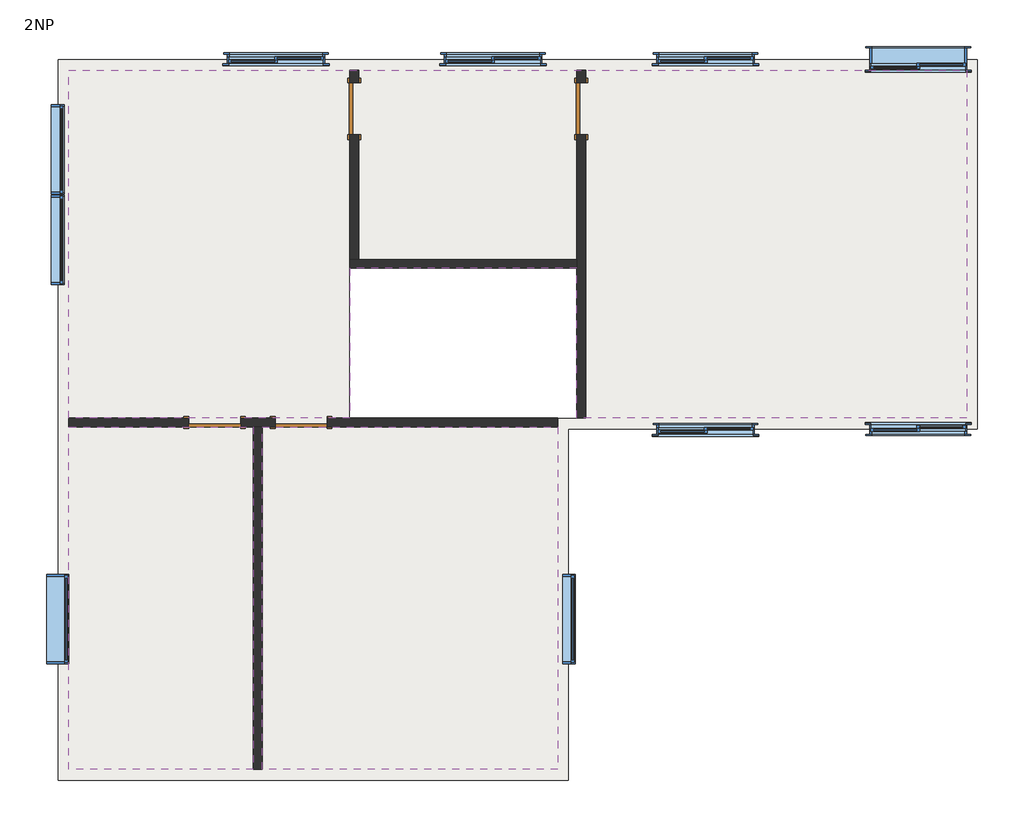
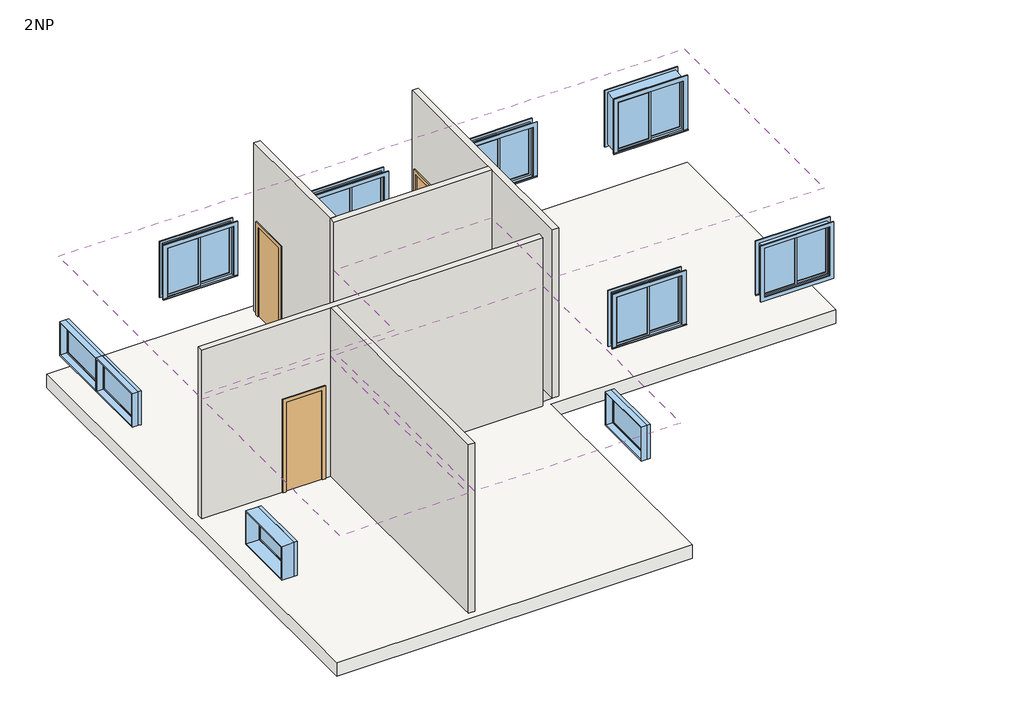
# One storey: 10 windows, 5 walls, 4 doors, 3 coverings, 1 slab.
"""IFC4 building model written with IfcOpenShell, lengths in millimetres."""

from ifc_helpers import new_model, si_unit, frame, origin, place, context, project, spatial, polyline, outline, extrude, faceted_brep, transform, mapped, element, save
from components import m_single_flush1_0813_x_2134mm_5dcb0bd6, m_single_flush1_0813_x_2134mm_bf4bb56d, m_single_flush1_0813_x_2134mm_cfdfac75, m_fixed1_1400_x_0800mm_5a787fd8, m_fixed1_1400_x_0800mm_a23a53e8, m_sliding_with_trim_1830_x_1220mm_c09c27c4, m_sliding_with_trim_1830_x_1220mm_f8e2f31e

model = new_model("IFC4")

# Units and contexts
model_context = context("Model", 3, world=origin())
ifc_project = project(units=[si_unit("LENGTHUNIT", "METRE", prefix="MILLI")], contexts=[model_context])

# Site, building, storey
site = spatial("IfcSite", under=ifc_project)
building = spatial("IfcBuilding", under=site)
storey = spatial("IfcBuildingStorey", under=building, Name="2NP", Elevation=4000.0)

# Coverings
placement = place(None, origin())
element("IfcCovering", 1, ObjectType="600 x 600mm grid", at=placement, inside=storey, context=model_context, shape_type="SweptSolid", body=[
    extrude(outline(polyline([(-4293.8077176, -4075.1973194), (-7180.3077176, -4075.1973194), (-7180.3077176, 1286.3026806), (-4293.8077176, 1286.3026806), (-4293.8077176, -4075.1973194)])), frame((0.0, 0.0, 6850.0), z_axis=(0.0, 0.0, 1.0), x_axis=(1.0, 0.0, 0.0)), (0.0, 0.0, 1.0), 52.0),
])
element("IfcCovering", 2, ObjectType="600 x 600mm grid", at=placement, inside=storey, context=model_context, shape_type="SweptSolid", body=[
    extrude(outline(polyline([(469.6922824, 1286.3026806), (469.6922824, -4075.1973194), (-4155.3077176, -4075.1973194), (-4155.3077176, 1286.3026806), (469.6922824, 1286.3026806)])), frame((0.0, 0.0, 6850.0), z_axis=(0.0, 0.0, 1.0), x_axis=(1.0, 0.0, 0.0)), (0.0, 0.0, 1.0), 52.0),
])
element("IfcCovering", 3, ObjectType="600 x 600mm grid", at=placement, inside=storey, context=model_context, shape_type="SweptSolid", body=[
    extrude(outline(polyline([(6869.6922824, 6874.8026806), (6869.6922824, 1424.8026806), (764.743045, 1424.8026806), (764.743045, 3773.1003657), (-2785.256955, 3773.1003657), (-2785.256955, 1424.8026806), (-7180.3077176, 1424.8026806), (-7180.3077176, 6874.8026806), (6869.6922824, 6874.8026806)])), frame((0.0, 0.0, 6850.0), z_axis=(0.0, 0.0, 1.0), x_axis=(1.0, 0.0, 0.0)), (0.0, 0.0, 1.0), 52.0),
])

# Doors
m_single_flush1_0813_x_2134mm_shape = m_single_flush1_0813_x_2134mm_5dcb0bd6(model_context)
element("IfcDoor", 4, ObjectType="M_Single-Flush1 : 0813 x 2134mm", at=placement, inside=storey, context=model_context, shape_type="MappedRepresentation", body=[
    mapped(m_single_flush1_0813_x_2134mm_shape, transform((833.993045, 6268.3026806, 4000.0), x_axis=(0.0, 1.0, 0.0), y_axis=(-1.0, 0.0, 0.0), z_axis=(0.0, 0.0, 1.0))),
])
element("IfcDoor", 5, ObjectType="M_Single-Flush1 : 0813 x 2134mm", at=placement, inside=storey, context=model_context, shape_type="MappedRepresentation", body=[
    mapped(m_single_flush1_0813_x_2134mm_shape, transform((-2716.006955, 6268.3026806, 4000.0), x_axis=(0.0, 1.0, 0.0), y_axis=(-1.0, 0.0, 0.0), z_axis=(0.0, 0.0, 1.0))),
])
m_single_flush1_0813_x_2134mm_2_shape = m_single_flush1_0813_x_2134mm_bf4bb56d(model_context)
element("IfcDoor", 6, ObjectType="M_Single-Flush1 : 0813 x 2134mm", at=placement, inside=storey, context=model_context, shape_type="MappedRepresentation", body=[
    mapped(m_single_flush1_0813_x_2134mm_2_shape, transform((-4900.3077176, 1355.5526806, 4000.0), x_axis=(1.0, 0.0, 0.0), y_axis=(0.0, 1.0, 0.0), z_axis=(0.0, 0.0, 1.0))),
])
m_single_flush1_0813_x_2134mm_3_shape = m_single_flush1_0813_x_2134mm_cfdfac75(model_context)
element("IfcDoor", 7, ObjectType="M_Single-Flush1 : 0813 x 2134mm", at=placement, inside=storey, context=model_context, shape_type="MappedRepresentation", body=[
    mapped(m_single_flush1_0813_x_2134mm_3_shape, transform((-3548.8077176, 1355.5526806, 4000.0), x_axis=(-1.0, 0.0, 0.0), y_axis=(0.0, -1.0, 0.0), z_axis=(0.0, 0.0, 1.0))),
])

# Slab
element("IfcSlab", 8, ObjectType="Residential 320mm", at=placement, inside=storey, context=model_context, shape_type="Brep", body=[
    faceted_brep([(-7345.3077176, -4240.1973194, 3680.0), (-7345.3077176, 7039.8026806, 3680.0), (7034.6922824, 7039.8026806, 3680.0), (7034.6922824, 1259.8026806, 3680.0), (634.6922824, 1259.8026806, 3680.0), (634.6922824, -4240.1973194, 3680.0), (764.743045, 3773.1003657, 3680.0), (-2785.256955, 3773.1003657, 3680.0), (-2785.256955, 1424.8026806, 3680.0), (469.6922824, 1424.8026806, 3680.0), (764.743045, 1424.8026806, 3680.0), (-7345.3077176, 7039.8026806, 4000.0), (-7345.3077176, -4240.1973194, 4000.0), (634.6922824, -4240.1973194, 4000.0), (634.6922824, 1259.8026806, 4000.0), (7034.6922824, 1259.8026806, 4000.0), (7034.6922824, 7039.8026806, 4000.0), (-2785.256955, 3773.1003657, 4000.0), (764.743045, 3773.1003657, 4000.0), (764.743045, 1424.8026806, 4000.0), (469.6922824, 1424.8026806, 4000.0), (-2785.256955, 1424.8026806, 4000.0)], [[[0, 1, 2, 3, 4, 5], [6, 7, 8, 9, 10]], [[11, 12, 13, 14, 15, 16], [17, 18, 19, 20, 21]], [[1, 0, 12, 11]], [[2, 1, 11, 16]], [[3, 2, 16, 15]], [[4, 3, 15, 14]], [[5, 4, 14, 13]], [[0, 5, 13, 12]], [[17, 7, 6, 18]], [[18, 6, 10, 19]], [[19, 10, 9, 8, 21, 20]], [[7, 17, 21, 8]]]),
])

# Walls
element("IfcWall", 9, ObjectType="Interior - 138mm Partition (1-hr)", at=placement, inside=storey, context=model_context, shape_type="Brep", body=[
    faceted_brep([(-3955.3077176, 1424.8026806, 6134.0), (-3955.3077176, 1424.8026806, 4000.0), (-4493.8077176, 1424.8026806, 4000.0), (-4493.8077176, 1424.8026806, 6134.0), (-5306.8077176, 1424.8026806, 6134.0), (-5306.8077176, 1424.8026806, 4000.0), (-7180.3077176, 1424.8026806, 4000.0), (-7180.3077176, 1424.8026806, 8000.0), (469.6922824, 1424.8026806, 8000.0), (469.6922824, 1424.8026806, 7680.0), (469.6922824, 1424.8026806, 4000.0), (-3142.3077176, 1424.8026806, 4000.0), (-3142.3077176, 1424.8026806, 6134.0), (-4493.8077176, 1286.3026806, 4000.0), (-4293.8077176, 1286.3026806, 4000.0), (-4155.3077176, 1286.3026806, 4000.0), (-3955.3077176, 1286.3026806, 4000.0), (-3955.3077176, 1286.3026806, 6134.0), (-3142.3077176, 1286.3026806, 6134.0), (-3142.3077176, 1286.3026806, 4000.0), (469.6922824, 1286.3026806, 4000.0), (469.6922824, 1286.3026806, 8000.0), (-4155.3077176, 1286.3026806, 8000.0), (-4293.8077176, 1286.3026806, 8000.0), (-7180.3077176, 1286.3026806, 8000.0), (-7180.3077176, 1286.3026806, 4000.0), (-5306.8077176, 1286.3026806, 4000.0), (-5306.8077176, 1286.3026806, 6134.0), (-4493.8077176, 1286.3026806, 6134.0)], [[[0, 1, 2, 3, 4, 5, 6, 7, 8, 9, 10, 11, 12]], [[13, 14, 15, 16, 17, 18, 19, 20, 21, 22, 23, 24, 25, 26, 27, 28]], [[2, 1, 16, 15, 14, 13]], [[26, 25, 6, 5]], [[11, 10, 20, 19]], [[8, 7, 24, 23, 22, 21]], [[7, 6, 25, 24]], [[10, 9, 8, 21, 20]], [[3, 2, 13, 28]], [[4, 3, 28, 27]], [[5, 4, 27, 26]], [[17, 16, 1, 0]], [[18, 17, 0, 12]], [[19, 18, 12, 11]]]),
])
element("IfcWall", 10, ObjectType="Interior - 138mm Partition (1-hr)", at=placement, inside=storey, context=model_context, shape_type="SweptSolid", body=[
    extrude(outline(polyline([(-4293.8077176, -4075.1973194), (-4293.8077176, 1286.3026806), (-4155.3077176, 1286.3026806), (-4155.3077176, -4075.1973194), (-4293.8077176, -4075.1973194)])), frame((0.0, 0.0, 4000.0), z_axis=(0.0, 0.0, 1.0), x_axis=(1.0, 0.0, 0.0)), (0.0, 0.0, 1.0), 4000.0),
])
element("IfcWall", 11, ObjectType="Interior - 138mm Partition (1-hr)", at=placement, inside=storey, context=model_context, shape_type="Brep", body=[
    faceted_brep([(903.243045, 6674.8026806, 6134.0), (903.243045, 6674.8026806, 4000.0), (903.243045, 6874.8026806, 4000.0), (903.243045, 6874.8026806, 8000.0), (903.243045, 1424.8026806, 8000.0), (903.243045, 1424.8026806, 4000.0), (903.243045, 5861.8026806, 4000.0), (903.243045, 5861.8026806, 6134.0), (764.743045, 6874.8026806, 4000.0), (764.743045, 6674.8026806, 4000.0), (764.743045, 6674.8026806, 6134.0), (764.743045, 5861.8026806, 6134.0), (764.743045, 5861.8026806, 4000.0), (764.743045, 3911.6003657, 4000.0), (764.743045, 3773.1003657, 4000.0), (764.743045, 1424.8026806, 4000.0), (764.743045, 1424.8026806, 8000.0), (764.743045, 3773.1003657, 8000.0), (764.743045, 3911.6003657, 8000.0), (764.743045, 6874.8026806, 8000.0), (819.6922824, 1424.8026806, 4000.0)], [[[0, 1, 2, 3, 4, 5, 6, 7]], [[8, 9, 10, 11, 12, 13, 14, 15, 16, 17, 18, 19]], [[2, 1, 9, 8]], [[6, 5, 20, 15, 14, 13, 12]], [[4, 3, 19, 18, 17, 16]], [[5, 4, 16, 15, 20]], [[3, 2, 8, 19]], [[10, 9, 1, 0]], [[11, 10, 0, 7]], [[12, 11, 7, 6]]]),
])
element("IfcWall", 12, ObjectType="Interior - 138mm Partition (1-hr)", at=placement, inside=storey, context=model_context, shape_type="Brep", body=[
    faceted_brep([(764.743045, 3911.6003657, 4000.0), (-2646.756955, 3911.6003657, 4000.0), (-2785.256955, 3911.6003657, 4000.0), (-2785.256955, 3911.6003657, 8000.0), (-2646.756955, 3911.6003657, 8000.0), (764.743045, 3911.6003657, 8000.0), (764.743045, 3773.1003657, 4000.0), (764.743045, 3773.1003657, 8000.0), (-2785.256955, 3773.1003657, 8000.0), (-2785.256955, 3773.1003657, 4000.0)], [[[0, 1, 2, 3, 4, 5]], [[6, 7, 8, 9]], [[2, 1, 0, 6, 9]], [[5, 4, 3, 8, 7]], [[3, 2, 9, 8]], [[0, 5, 7, 6]]]),
])
element("IfcWall", 13, ObjectType="Interior - 138mm Partition (1-hr)", at=placement, inside=storey, context=model_context, shape_type="SweptSolid", body=[
    extrude(outline(polyline([(6874.8026806, 4000.0), (6674.8026806, 4000.0), (6674.8026806, 6134.0), (5861.8026806, 6134.0), (5861.8026806, 4000.0), (3911.6003657, 4000.0), (3911.6003657, 8000.0), (6874.8026806, 8000.0), (6874.8026806, 4000.0)])), frame((-2785.256955, 0.0, 0.0), z_axis=(1.0, 0.0, 0.0), x_axis=(0.0, 1.0, 0.0)), (0.0, 0.0, 1.0), 138.5),
])

# Windows
m_fixed1_1400_x_0800mm_shape = m_fixed1_1400_x_0800mm_5a787fd8(model_context)
element("IfcWindow", 14, ObjectType="M_Fixed1 : 1400 x 0800mm", at=placement, inside=storey, context=model_context, shape_type="MappedRepresentation", body=[
    mapped(m_fixed1_1400_x_0800mm_shape, transform((-7368.3077176, 4217.3026806, 4000.0), x_axis=(0.0, -1.0, 0.0), y_axis=(1.0, 0.0, 0.0), z_axis=(0.0, 0.0, 1.0))),
])
element("IfcWindow", 15, ObjectType="M_Fixed1 : 1400 x 0800mm", at=placement, inside=storey, context=model_context, shape_type="MappedRepresentation", body=[
    mapped(m_fixed1_1400_x_0800mm_shape, transform((-7368.3077176, 5632.3026806, 4000.0), x_axis=(0.0, -1.0, 0.0), y_axis=(1.0, 0.0, 0.0), z_axis=(0.0, 0.0, 1.0))),
])
element("IfcWindow", 16, ObjectType="M_Fixed1 : 1400 x 0800mm", at=placement, inside=storey, context=model_context, shape_type="MappedRepresentation", body=[
    mapped(m_fixed1_1400_x_0800mm_shape, transform((631.6922824, -1717.6973194, 4000.0), x_axis=(0.0, -1.0, 0.0), y_axis=(1.0, 0.0, 0.0), z_axis=(0.0, 0.0, 1.0))),
])
m_fixed1_1400_x_0800mm_2_shape = m_fixed1_1400_x_0800mm_a23a53e8(model_context)
element("IfcWindow", 17, ObjectType="M_Fixed1 : 1400 x 0800mm", at=placement, inside=storey, context=model_context, shape_type="MappedRepresentation", body=[
    mapped(m_fixed1_1400_x_0800mm_2_shape, transform((-7368.3077176, -1717.6973194, 4000.0), x_axis=(0.0, -1.0, 0.0), y_axis=(1.0, 0.0, 0.0), z_axis=(0.0, 0.0, 1.0))),
])
m_sliding_with_trim_1830_x_1220mm_shape = m_sliding_with_trim_1830_x_1220mm_c09c27c4(model_context)
element("IfcWindow", 18, ObjectType="M_Sliding with Trim : 1830 x 1220mm", at=placement, inside=storey, context=model_context, shape_type="MappedRepresentation", body=[
    mapped(m_sliding_with_trim_1830_x_1220mm_shape, transform((2781.6922824, 7049.8026806, 4000.0), x_axis=(-1.0, 0.0, 0.0), y_axis=(0.0, -1.0, 0.0), z_axis=(0.0, 0.0, 1.0))),
])
element("IfcWindow", 19, ObjectType="M_Sliding with Trim : 1830 x 1220mm", at=placement, inside=storey, context=model_context, shape_type="MappedRepresentation", body=[
    mapped(m_sliding_with_trim_1830_x_1220mm_shape, transform((6107.6922824, 1249.8026806, 4000.0), x_axis=(1.0, 0.0, 0.0), y_axis=(0.0, 1.0, 0.0), z_axis=(0.0, 0.0, 1.0))),
])
element("IfcWindow", 20, ObjectType="M_Sliding with Trim : 1830 x 1220mm", at=placement, inside=storey, context=model_context, shape_type="MappedRepresentation", body=[
    mapped(m_sliding_with_trim_1830_x_1220mm_shape, transform((2781.6922824, 1249.8026806, 4000.0), x_axis=(-1.0, 0.0, 0.0), y_axis=(0.0, -1.0, 0.0), z_axis=(0.0, 0.0, 1.0))),
])
element("IfcWindow", 21, ObjectType="M_Sliding with Trim : 1830 x 1220mm", at=placement, inside=storey, context=model_context, shape_type="MappedRepresentation", body=[
    mapped(m_sliding_with_trim_1830_x_1220mm_shape, transform((-544.3077176, 7049.8026806, 4000.0), x_axis=(-1.0, 0.0, 0.0), y_axis=(0.0, -1.0, 0.0), z_axis=(0.0, 0.0, 1.0))),
])
element("IfcWindow", 22, ObjectType="M_Sliding with Trim : 1830 x 1220mm", at=placement, inside=storey, context=model_context, shape_type="MappedRepresentation", body=[
    mapped(m_sliding_with_trim_1830_x_1220mm_shape, transform((-3940.1577176, 7049.8026806, 4000.0), x_axis=(-1.0, 0.0, 0.0), y_axis=(0.0, -1.0, 0.0), z_axis=(0.0, 0.0, 1.0))),
])
m_sliding_with_trim_1830_x_1220mm_2_shape = m_sliding_with_trim_1830_x_1220mm_f8e2f31e(model_context)
element("IfcWindow", 23, ObjectType="M_Sliding with Trim : 1830 x 1220mm", at=placement, inside=storey, context=model_context, shape_type="MappedRepresentation", body=[
    mapped(m_sliding_with_trim_1830_x_1220mm_2_shape, transform((6107.6922824, 7049.8026806, 4000.0), x_axis=(-1.0, 0.0, 0.0), y_axis=(0.0, -1.0, 0.0), z_axis=(0.0, 0.0, 1.0))),
])

save(model, "model.ifc")
